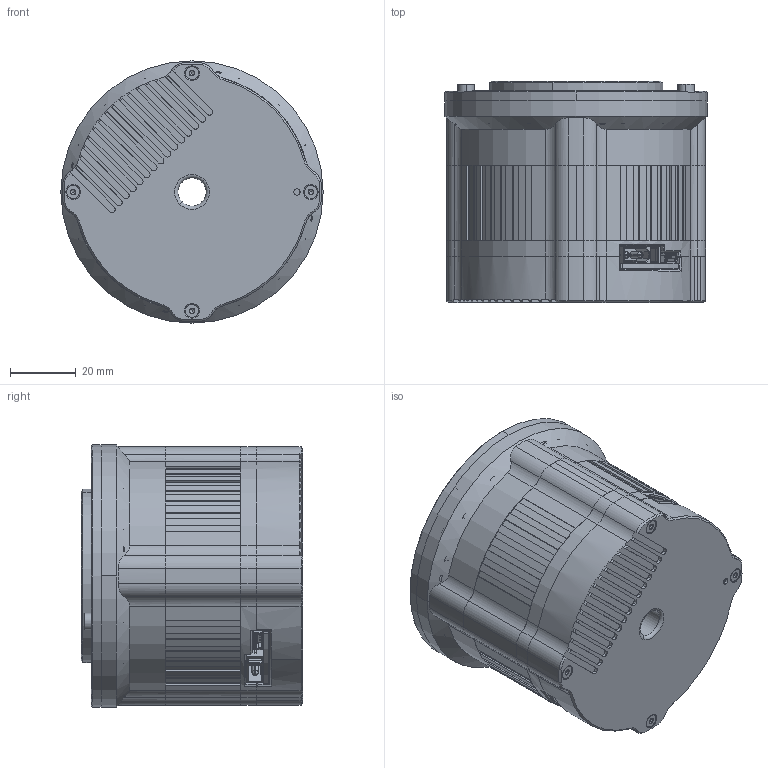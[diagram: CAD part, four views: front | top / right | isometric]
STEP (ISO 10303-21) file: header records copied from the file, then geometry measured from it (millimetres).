
FILE_DESCRIPTION (( 'STEP AP203' ), '1' );
FILE_NAME ('RMD-X6-P20-60 外形图.STEP', '2026-09-20T03:13:59', ( '微软用户' ), ( '微软中国' ), 'SwSTEP 2.0', 'SolidWorks 2020', '' );
FILE_SCHEMA (( 'CONFIG_CONTROL_DESIGN' ));
Length unit declared in the file: millimetre
Products named in the file (13): V4_3D_X6三相线转接板 V1.2_2026-04-10; M1.6X4.STEP; 8MT.013.031_Default________.STEP; M3X10.STEP; 8MT.013.039.STEP; XMT.105.012_Default________.STEP; XMT.106.003_Default________.STEP; RMD-X6-P20-60 俋倛芞; JBAU3-8_Default________.STEP; XMT.105.004_Default________.STEP; M2X18.STEP; 80ZWC64LEG-1_0_0-02.STEP; XMT.105.020_Default________.STEP
Assembly tree (20 placements, depth 2):
  RMD-X6-P20-60 俋倛芞
    8MT.013.039.STEP
    XMT.105.004_Default________.STEP
    XMT.105.012_Default________.STEP
    XMT.105.020_Default________.STEP
    XMT.106.003_Default________.STEP
    JBAU3-8_Default________.STEP  x2
    8MT.013.031_Default________.STEP
    80ZWC64LEG-1_0_0-02.STEP
    M2X18.STEP  x4
    M3X10.STEP  x4
    M1.6X4.STEP  x2
    V4_3D_X6三相线转接板 V1.2_2026-04-10
Bounding box: 80 x 67.5 x 80 mm (x, y, z)
Volume: 67467.3 mm3; surface area: 80424.5 mm2
Topology: 54 solids, 54 shells, 3366 faces, 8779 edges, 5628 vertices
Faces by surface type: plane 1645, cylinder 947, bspline 464, cone 304, torus 6
Entity records: 104048 total; most frequent: CARTESIAN_POINT 27182, ORIENTED_EDGE 16478, DIRECTION 14057, EDGE_CURVE 8239, VERTEX_POINT 5375, VECTOR 4773, LINE 4773, AXIS2_PLACEMENT_3D 4642
